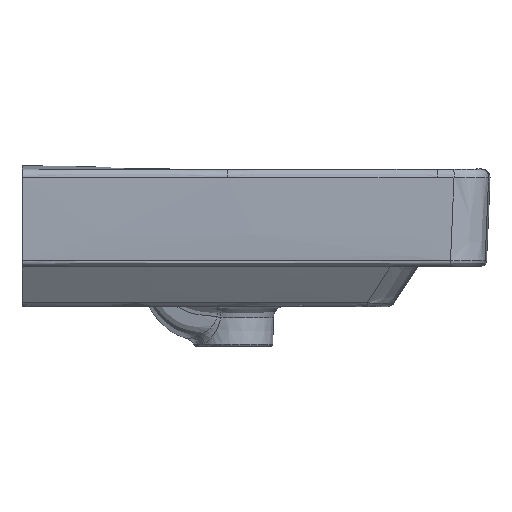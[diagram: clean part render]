
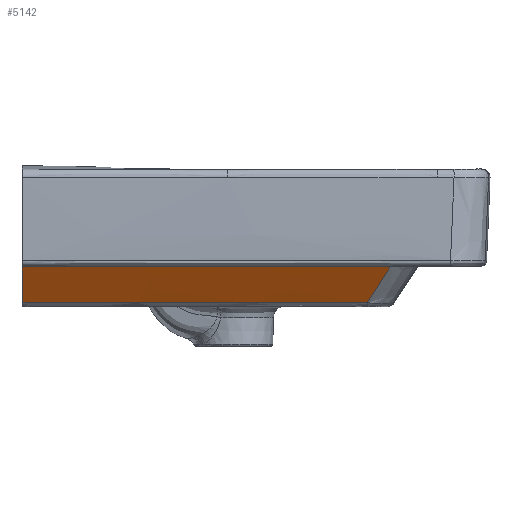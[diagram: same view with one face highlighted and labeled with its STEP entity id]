
A CAD part, left-side view. The second image highlights one B-rep face of the part: STEP entity #5142.
In plain terms, the highlighted free-form (B-spline) face has degree [3, 3] with [4, 6] control points.
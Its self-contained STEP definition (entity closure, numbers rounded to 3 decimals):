
#275=CIRCLE('',#5280,65157.753);
#462=CIRCLE('',#5559,65134.389);
#765=B_SPLINE_SURFACE_WITH_KNOTS('',3,3,((#48888,#48889,#48890,#48891,#48892,
#48893),(#48894,#48895,#48896,#48897,#48898,#48899),(#48900,#48901,#48902,
#48903,#48904,#48905),(#48906,#48907,#48908,#48909,#48910,#48911)),
 .UNSPECIFIED.,.F.,.F.,.F.,(4,4),(4,1,1,4),(0.106,0.927),
(0.056,0.333,0.667,1.004),
 .UNSPECIFIED.);
#1005=FACE_OUTER_BOUND('',#1333,.T.);
#1333=EDGE_LOOP('',(#4083,#4084,#4085,#4086));
#1494=B_SPLINE_CURVE_WITH_KNOTS('',3,(#9384,#9385,#9386,#9387,#9388,#9389,
#9390,#9391,#9392,#9393,#9394,#9395,#9396,#9397,#9398,#9399,#9400,#9401,
#9402),.UNSPECIFIED.,.F.,.F.,(4,3,3,3,3,3,4),(0.,0.196,0.333,
0.521,0.667,0.848,1.),.UNSPECIFIED.);
#1697=B_SPLINE_CURVE_WITH_KNOTS('',3,(#48912,#48913,#48914,#48915,#48916,
#48917,#48918),.UNSPECIFIED.,.F.,.F.,(4,1,1,1,4),(0.,0.202,0.651,
0.876,1.),.UNSPECIFIED.);
#1847=VERTEX_POINT('',#7860);
#1848=VERTEX_POINT('',#7862);
#1885=VERTEX_POINT('',#9382);
#2163=VERTEX_POINT('',#48885);
#2302=EDGE_CURVE('',#1848,#1847,#275,.T.);
#2352=EDGE_CURVE('',#1885,#1847,#1494,.T.);
#2825=EDGE_CURVE('',#1885,#2163,#462,.T.);
#2826=EDGE_CURVE('',#1848,#2163,#1697,.T.);
#4083=ORIENTED_EDGE('',*,*,#2352,.F.);
#4084=ORIENTED_EDGE('',*,*,#2825,.T.);
#4085=ORIENTED_EDGE('',*,*,#2826,.F.);
#4086=ORIENTED_EDGE('',*,*,#2302,.T.);
#5142=ADVANCED_FACE('',(#1005),#765,.F.);
#5280=AXIS2_PLACEMENT_3D('',#7863,#5679,#5680);
#5559=AXIS2_PLACEMENT_3D('',#48887,#6314,#6315);
#5679=DIRECTION('center_axis',(0.,0.,-1.));
#5680=DIRECTION('ref_axis',(-1.,-0.005,0.));
#6314=DIRECTION('center_axis',(0.,0.,1.));
#6315=DIRECTION('ref_axis',(-1.,0.,0.));
#7860=CARTESIAN_POINT('',(-201.252,0.,765.013));
#7862=CARTESIAN_POINT('',(-200.393,-324.696,765.013));
#7863=CARTESIAN_POINT('Origin',(64956.5,10.,765.013));
#9382=CARTESIAN_POINT('',(-177.888,0.,729.986));
#9384=CARTESIAN_POINT('Ctrl Pts',(-177.888,0.,
729.986));
#9385=CARTESIAN_POINT('Ctrl Pts',(-179.325,0.,
732.087));
#9386=CARTESIAN_POINT('Ctrl Pts',(-180.779,0.,
734.226));
#9387=CARTESIAN_POINT('Ctrl Pts',(-182.252,0.,
736.402));
#9388=CARTESIAN_POINT('Ctrl Pts',(-183.28,0.,
737.92));
#9389=CARTESIAN_POINT('Ctrl Pts',(-184.316,0.,
739.457));
#9390=CARTESIAN_POINT('Ctrl Pts',(-185.362,0.,
741.011));
#9391=CARTESIAN_POINT('Ctrl Pts',(-186.792,0.,
743.139));
#9392=CARTESIAN_POINT('Ctrl Pts',(-188.24,0.,
745.302));
#9393=CARTESIAN_POINT('Ctrl Pts',(-189.704,0.,
747.498));
#9394=CARTESIAN_POINT('Ctrl Pts',(-190.843,0.,
749.207));
#9395=CARTESIAN_POINT('Ctrl Pts',(-191.992,0.,
750.936));
#9396=CARTESIAN_POINT('Ctrl Pts',(-193.15,0.,
752.687));
#9397=CARTESIAN_POINT('Ctrl Pts',(-194.59,0.,
754.861));
#9398=CARTESIAN_POINT('Ctrl Pts',(-196.045,0.,
757.067));
#9399=CARTESIAN_POINT('Ctrl Pts',(-197.515,0.,
759.305));
#9400=CARTESIAN_POINT('Ctrl Pts',(-198.75,0.,
761.185));
#9401=CARTESIAN_POINT('Ctrl Pts',(-199.996,0.,
763.088));
#9402=CARTESIAN_POINT('Ctrl Pts',(-201.252,0.,
765.013));
#48885=CARTESIAN_POINT('',(-177.14,-302.29,729.986));
#48887=CARTESIAN_POINT('Origin',(64956.5,10.,729.986));
#48888=CARTESIAN_POINT('Ctrl Pts',(-200.59,-331.191,765.365));
#48889=CARTESIAN_POINT('Ctrl Pts',(-200.762,-298.235,765.365));
#48890=CARTESIAN_POINT('Ctrl Pts',(-201.087,-225.725,765.365));
#48891=CARTESIAN_POINT('Ctrl Pts',(-201.403,-113.163,765.365));
#48892=CARTESIAN_POINT('Ctrl Pts',(-201.481,-33.558,765.365));
#48893=CARTESIAN_POINT('Ctrl Pts',(-201.483,6.494,765.365));
#48894=CARTESIAN_POINT('Ctrl Pts',(-192.767,-331.15,753.376));
#48895=CARTESIAN_POINT('Ctrl Pts',(-192.94,-298.198,753.376));
#48896=CARTESIAN_POINT('Ctrl Pts',(-193.264,-225.697,753.376));
#48897=CARTESIAN_POINT('Ctrl Pts',(-193.58,-113.149,753.376));
#48898=CARTESIAN_POINT('Ctrl Pts',(-193.658,-33.553,753.376));
#48899=CARTESIAN_POINT('Ctrl Pts',(-193.66,6.494,753.376));
#48900=CARTESIAN_POINT('Ctrl Pts',(-184.839,-331.108,741.455));
#48901=CARTESIAN_POINT('Ctrl Pts',(-185.012,-298.16,741.455));
#48902=CARTESIAN_POINT('Ctrl Pts',(-185.336,-225.668,741.455));
#48903=CARTESIAN_POINT('Ctrl Pts',(-185.652,-113.134,741.455));
#48904=CARTESIAN_POINT('Ctrl Pts',(-185.73,-33.547,741.455));
#48905=CARTESIAN_POINT('Ctrl Pts',(-185.732,6.495,741.455));
#48906=CARTESIAN_POINT('Ctrl Pts',(-176.758,-331.066,729.638));
#48907=CARTESIAN_POINT('Ctrl Pts',(-176.931,-298.122,729.638));
#48908=CARTESIAN_POINT('Ctrl Pts',(-177.256,-225.639,729.638));
#48909=CARTESIAN_POINT('Ctrl Pts',(-177.572,-113.118,729.638));
#48910=CARTESIAN_POINT('Ctrl Pts',(-177.649,-33.542,729.638));
#48911=CARTESIAN_POINT('Ctrl Pts',(-177.651,6.495,729.638));
#48912=CARTESIAN_POINT('Ctrl Pts',(-200.393,-324.696,765.013));
#48913=CARTESIAN_POINT('Ctrl Pts',(-198.853,-323.211,762.641));
#48914=CARTESIAN_POINT('Ctrl Pts',(-193.863,-318.404,754.989));
#48915=CARTESIAN_POINT('Ctrl Pts',(-187.083,-311.871,744.729));
#48916=CARTESIAN_POINT('Ctrl Pts',(-180.848,-305.864,735.449));
#48917=CARTESIAN_POINT('Ctrl Pts',(-178.114,-303.228,731.416));
#48918=CARTESIAN_POINT('Ctrl Pts',(-177.14,-302.291,729.986));
